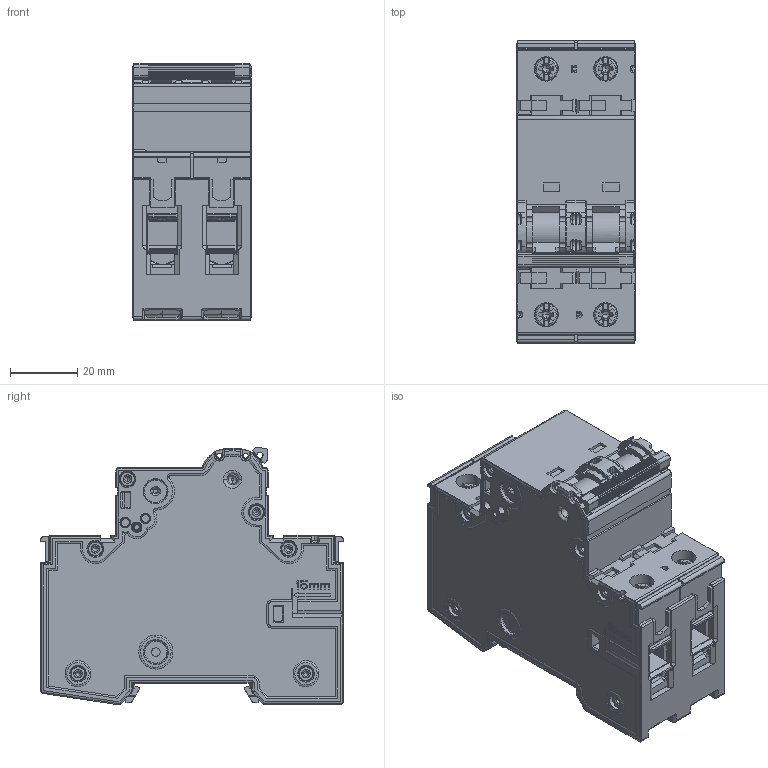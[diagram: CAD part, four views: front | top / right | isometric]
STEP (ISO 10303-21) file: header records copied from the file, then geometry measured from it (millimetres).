
FILE_DESCRIPTION (( 'STEP AP214' ), '1' );
FILE_NAME ('LTN-2.STEP', '2018-09-05T11:35:52', ( '' ), ( '' ), 'SwSTEP 2.0', 'SolidWorks 2015', '' );
FILE_SCHEMA (( 'AUTOMOTIVE_DESIGN' ));
Length unit declared in the file: millimetre
Products named in the file (1): LTN-2
Bounding box: 35.2 x 89.8 x 76.11 mm (x, y, z)
Volume: 169822.1 mm3; surface area: 35524.8 mm2
Topology: 5 solids, 5 shells, 2721 faces, 7814 edges, 5122 vertices
Faces by surface type: plane 1616, cylinder 587, bspline 265, cone 213, torus 40
Entity records: 135637 total; most frequent: CARTESIAN_POINT 40172, ORIENTED_EDGE 15524, DIRECTION 10802, EDGE_CURVE 7762, VERTEX_POINT 5122, LINE 4618, VECTOR 4618, AXIS2_PLACEMENT_3D 3092
